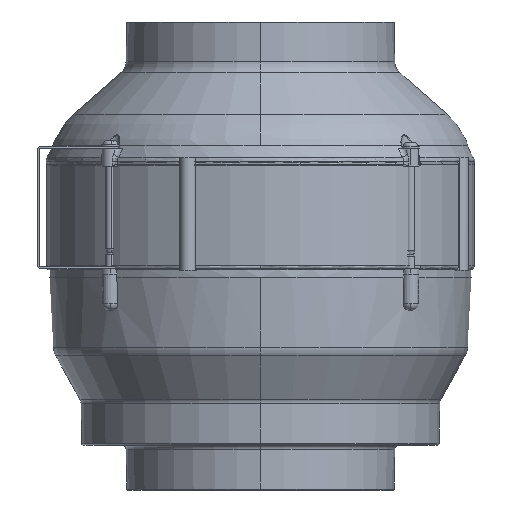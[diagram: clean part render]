
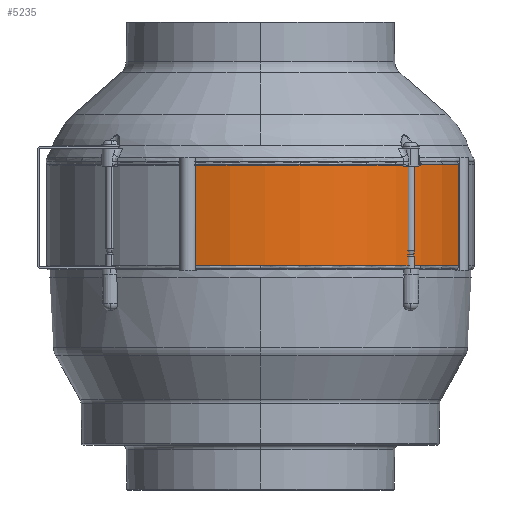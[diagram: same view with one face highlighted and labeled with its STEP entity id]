
A CAD part, left-side view. The second image highlights one B-rep face of the part: STEP entity #5235.
In plain terms, the highlighted cylindrical face has radius 118.8 mm (diameter 237.6 mm), a partial arc.
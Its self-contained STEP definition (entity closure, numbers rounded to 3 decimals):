
#429 = FACE_OUTER_BOUND ( 'NONE', #6742, .T. ) ;
#441 = CYLINDRICAL_SURFACE ( 'NONE', #19771, 118.8 ) ;
#1216 = CARTESIAN_POINT ( 'NONE',  ( -113.116, 36.308, 61. ) ) ;
#2258 = CARTESIAN_POINT ( 'NONE',  ( 0., 0., 0. ) ) ;
#2260 = DIRECTION ( 'NONE',  ( 0., 0., 1. ) ) ;
#2262 = DIRECTION ( 'NONE',  ( 1., 0., 0. ) ) ;
#5235 = ADVANCED_FACE ( 'NONE', ( #429 ), #441, .T. ) ;
#5518 = CIRCLE ( 'NONE', #20015, 118.8 ) ;
#5532 = VECTOR ( 'NONE', #12072, 1000. ) ;
#5553 = LINE ( 'NONE', #12085, #5532 ) ;
#5555 = CIRCLE ( 'NONE', #20014, 118.8 ) ;
#6742 = EDGE_LOOP ( 'NONE', ( #23897, #24018, #13896, #24236 ) ) ;
#7083 = CARTESIAN_POINT ( 'NONE',  ( -44.896, -109.99, 33.4 ) ) ;
#7982 = VERTEX_POINT ( 'NONE', #12160 ) ;
#8983 = EDGE_CURVE ( 'NONE', #10424, #7982, #5553, .T. ) ;
#8992 = EDGE_CURVE ( 'NONE', #7982, #21425, #5555, .T. ) ;
#8993 = EDGE_CURVE ( 'NONE', #10424, #21415, #5518, .T. ) ;
#10290 = VECTOR ( 'NONE', #13882, 1000. ) ;
#10305 = LINE ( 'NONE', #7083, #10290 ) ;
#10424 = VERTEX_POINT ( 'NONE', #1216 ) ;
#11999 = DIRECTION ( 'NONE',  ( 1., 0., 0. ) ) ;
#12010 = DIRECTION ( 'NONE',  ( 0., 0., 1. ) ) ;
#12014 = CARTESIAN_POINT ( 'NONE',  ( 0., 0., 61. ) ) ;
#12024 = DIRECTION ( 'NONE',  ( 1., 0., 0. ) ) ;
#12029 = DIRECTION ( 'NONE',  ( 0., 0., 1. ) ) ;
#12031 = CARTESIAN_POINT ( 'NONE',  ( 0., 0., 4.5 ) ) ;
#12072 = DIRECTION ( 'NONE',  ( 0., 0., -1. ) ) ;
#12085 = CARTESIAN_POINT ( 'NONE',  ( -113.116, 36.308, 33.4 ) ) ;
#12160 = CARTESIAN_POINT ( 'NONE',  ( -113.116, 36.308, 4.5 ) ) ;
#13882 = DIRECTION ( 'NONE',  ( 0., 0., 1. ) ) ;
#13896 = ORIENTED_EDGE ( 'NONE', *, *, #8993, .F. ) ;
#15128 = EDGE_CURVE ( 'NONE', #21425, #21415, #10305, .T. ) ;
#15626 = CARTESIAN_POINT ( 'NONE',  ( -44.896, -109.99, 61. ) ) ;
#15635 = CARTESIAN_POINT ( 'NONE',  ( -44.896, -109.99, 4.5 ) ) ;
#19771 = AXIS2_PLACEMENT_3D ( 'NONE', #2258, #2260, #2262 ) ;
#20014 = AXIS2_PLACEMENT_3D ( 'NONE', #12031, #12029, #12024 ) ;
#20015 = AXIS2_PLACEMENT_3D ( 'NONE', #12014, #12010, #11999 ) ;
#21415 = VERTEX_POINT ( 'NONE', #15626 ) ;
#21425 = VERTEX_POINT ( 'NONE', #15635 ) ;
#23897 = ORIENTED_EDGE ( 'NONE', *, *, #8992, .T. ) ;
#24018 = ORIENTED_EDGE ( 'NONE', *, *, #15128, .T. ) ;
#24236 = ORIENTED_EDGE ( 'NONE', *, *, #8983, .T. ) ;
